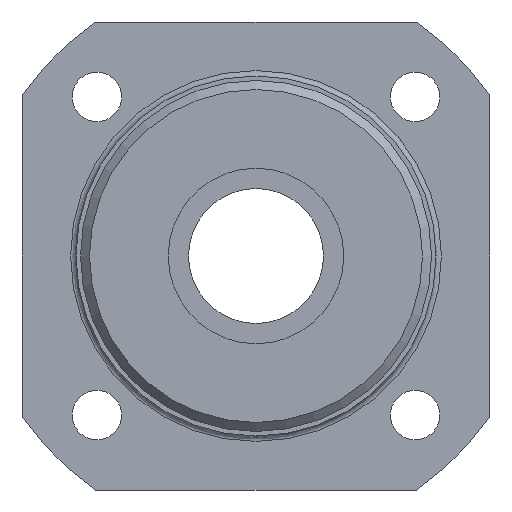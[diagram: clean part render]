
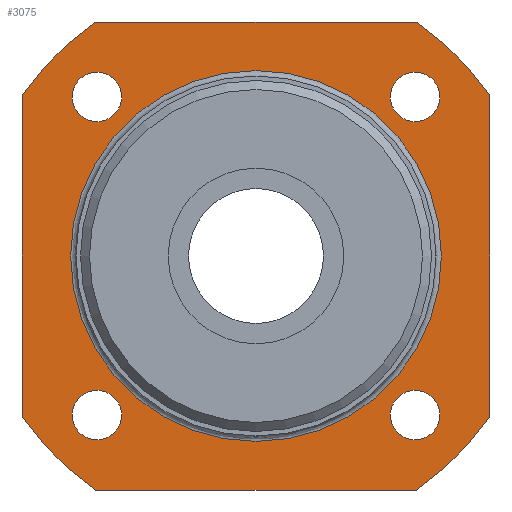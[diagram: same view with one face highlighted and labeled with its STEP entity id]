
A CAD part, left-side view. The second image highlights one B-rep face of the part: STEP entity #3075.
In plain terms, the highlighted planar face has unit normal (-1, 0, 0).
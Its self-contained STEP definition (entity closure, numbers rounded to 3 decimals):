
#1839=CARTESIAN_POINT('',(-15.0,14.928,-17.678));
#1840=VERTEX_POINT('',#1839);
#1841=CARTESIAN_POINT('',(-15.0,17.678,-17.678));
#1842=DIRECTION('',(1.0,0.0,0.0));
#1843=DIRECTION('',(0.0,1.0,0.0));
#1844=AXIS2_PLACEMENT_3D('',#1841,#1842,#1843);
#1845=CIRCLE('',#1844,2.75);
#1846=EDGE_CURVE('',#1840,#1840,#1845,.T.);
#1949=CARTESIAN_POINT('',(-15.0,14.928,17.678));
#1950=VERTEX_POINT('',#1949);
#1951=CARTESIAN_POINT('',(-15.0,17.678,17.678));
#1952=DIRECTION('',(1.0,0.0,0.0));
#1953=DIRECTION('',(0.0,1.0,0.0));
#1954=AXIS2_PLACEMENT_3D('',#1951,#1952,#1953);
#1955=CIRCLE('',#1954,2.75);
#1956=EDGE_CURVE('',#1950,#1950,#1955,.T.);
#2059=CARTESIAN_POINT('',(-15.0,-20.428,17.678));
#2060=VERTEX_POINT('',#2059);
#2061=CARTESIAN_POINT('',(-15.0,-17.678,17.678));
#2062=DIRECTION('',(1.0,0.0,0.0));
#2063=DIRECTION('',(0.0,1.0,0.0));
#2064=AXIS2_PLACEMENT_3D('',#2061,#2062,#2063);
#2065=CIRCLE('',#2064,2.75);
#2066=EDGE_CURVE('',#2060,#2060,#2065,.T.);
#2169=CARTESIAN_POINT('',(-15.0,-20.428,-17.678));
#2170=VERTEX_POINT('',#2169);
#2171=CARTESIAN_POINT('',(-15.0,-17.678,-17.678));
#2172=DIRECTION('',(1.0,0.0,0.0));
#2173=DIRECTION('',(0.0,1.0,0.0));
#2174=AXIS2_PLACEMENT_3D('',#2171,#2172,#2173);
#2175=CIRCLE('',#2174,2.75);
#2176=EDGE_CURVE('',#2170,#2170,#2175,.T.);
#2655=CARTESIAN_POINT('',(-15.0,26.,17.783));
#2656=VERTEX_POINT('',#2655);
#2657=CARTESIAN_POINT('',(-15.0,26.,-17.783));
#2658=VERTEX_POINT('',#2657);
#2659=CARTESIAN_POINT('',(-15.0,26.,17.783));
#2660=DIRECTION('',(0.0,0.0,-1.0));
#2661=VECTOR('',#2660,35.567);
#2662=LINE('',#2659,#2661);
#2663=EDGE_CURVE('',#2656,#2658,#2662,.T.);
#2695=CARTESIAN_POINT('',(-15.0,-26.,-17.783));
#2696=VERTEX_POINT('',#2695);
#2697=CARTESIAN_POINT('',(-15.0,-26.,17.783));
#2698=VERTEX_POINT('',#2697);
#2699=CARTESIAN_POINT('',(-15.0,-26.,-17.783));
#2700=DIRECTION('',(0.0,0.0,1.0));
#2701=VECTOR('',#2700,35.567);
#2702=LINE('',#2699,#2701);
#2703=EDGE_CURVE('',#2696,#2698,#2702,.T.);
#2735=CARTESIAN_POINT('',(-15.0,17.783,-26.));
#2736=VERTEX_POINT('',#2735);
#2737=CARTESIAN_POINT('',(-15.0,-17.783,-26.));
#2738=VERTEX_POINT('',#2737);
#2739=CARTESIAN_POINT('',(-15.0,17.783,-26.));
#2740=DIRECTION('',(0.0,-1.0,0.0));
#2741=VECTOR('',#2740,35.567);
#2742=LINE('',#2739,#2741);
#2743=EDGE_CURVE('',#2736,#2738,#2742,.T.);
#2775=CARTESIAN_POINT('',(-15.0,-17.783,26.));
#2776=VERTEX_POINT('',#2775);
#2777=CARTESIAN_POINT('',(-15.0,17.783,26.));
#2778=VERTEX_POINT('',#2777);
#2779=CARTESIAN_POINT('',(-15.0,-17.783,26.));
#2780=DIRECTION('',(0.0,1.0,0.0));
#2781=VECTOR('',#2780,35.567);
#2782=LINE('',#2779,#2781);
#2783=EDGE_CURVE('',#2776,#2778,#2782,.T.);
#2824=CARTESIAN_POINT('',(-15.0,0.0,0.0));
#2825=DIRECTION('',(1.0,0.0,0.0));
#2826=DIRECTION('',(0.0,1.0,0.0));
#2827=AXIS2_PLACEMENT_3D('',#2824,#2825,#2826);
#2828=CIRCLE('',#2827,31.5);
#2829=EDGE_CURVE('',#2776,#2698,#2828,.T.);
#2840=CARTESIAN_POINT('',(-15.0,0.0,0.0));
#2841=DIRECTION('',(1.0,0.0,0.0));
#2842=DIRECTION('',(0.0,1.0,0.0));
#2843=AXIS2_PLACEMENT_3D('',#2840,#2841,#2842);
#2844=CIRCLE('',#2843,31.5);
#2845=EDGE_CURVE('',#2656,#2778,#2844,.T.);
#2864=CARTESIAN_POINT('',(-15.0,0.0,0.0));
#2865=DIRECTION('',(1.0,0.0,0.0));
#2866=DIRECTION('',(0.0,1.0,0.0));
#2867=AXIS2_PLACEMENT_3D('',#2864,#2865,#2866);
#2868=CIRCLE('',#2867,31.5);
#2869=EDGE_CURVE('',#2696,#2738,#2868,.T.);
#3024=CARTESIAN_POINT('',(-15.0,20.6,0.0));
#3025=VERTEX_POINT('',#3024);
#3026=CARTESIAN_POINT('',(-15.0,0.0,0.0));
#3027=DIRECTION('',(1.0,0.0,0.0));
#3028=DIRECTION('',(0.0,1.0,0.0));
#3029=AXIS2_PLACEMENT_3D('',#3026,#3027,#3028);
#3030=CIRCLE('',#3029,20.6);
#3031=EDGE_CURVE('',#3025,#3025,#3030,.T.);
#3039=CARTESIAN_POINT('',(-15.0,26.05,0.0));
#3040=DIRECTION('',(-1.0,0.0,0.0));
#3041=DIRECTION('',(0.0,0.0,1.0));
#3042=AXIS2_PLACEMENT_3D('',#3039,#3040,#3041);
#3043=PLANE('',#3042);
#3044=ORIENTED_EDGE('',*,*,#2663,.T.);
#3045=CARTESIAN_POINT('',(-15.0,0.0,0.0));
#3046=DIRECTION('',(1.0,0.0,0.0));
#3047=DIRECTION('',(0.0,1.0,0.0));
#3048=AXIS2_PLACEMENT_3D('',#3045,#3046,#3047);
#3049=CIRCLE('',#3048,31.5);
#3050=EDGE_CURVE('',#2736,#2658,#3049,.T.);
#3051=ORIENTED_EDGE('',*,*,#3050,.F.);
#3052=ORIENTED_EDGE('',*,*,#2743,.T.);
#3053=ORIENTED_EDGE('',*,*,#2869,.F.);
#3054=ORIENTED_EDGE('',*,*,#2703,.T.);
#3055=ORIENTED_EDGE('',*,*,#2829,.F.);
#3056=ORIENTED_EDGE('',*,*,#2783,.T.);
#3057=ORIENTED_EDGE('',*,*,#2845,.F.);
#3058=EDGE_LOOP('',(#3044,#3051,#3052,#3053,#3054,#3055,#3056,#3057));
#3059=FACE_OUTER_BOUND('',#3058,.T.);
#3060=ORIENTED_EDGE('',*,*,#1846,.T.);
#3061=EDGE_LOOP('',(#3060));
#3062=FACE_BOUND('',#3061,.T.);
#3063=ORIENTED_EDGE('',*,*,#1956,.T.);
#3064=EDGE_LOOP('',(#3063));
#3065=FACE_BOUND('',#3064,.T.);
#3066=ORIENTED_EDGE('',*,*,#2066,.T.);
#3067=EDGE_LOOP('',(#3066));
#3068=FACE_BOUND('',#3067,.T.);
#3069=ORIENTED_EDGE('',*,*,#2176,.T.);
#3070=EDGE_LOOP('',(#3069));
#3071=FACE_BOUND('',#3070,.T.);
#3072=ORIENTED_EDGE('',*,*,#3031,.T.);
#3073=EDGE_LOOP('',(#3072));
#3074=FACE_BOUND('',#3073,.T.);
#3075=ADVANCED_FACE('',(#3059,#3062,#3065,#3068,#3071,#3074),#3043,.T.);
